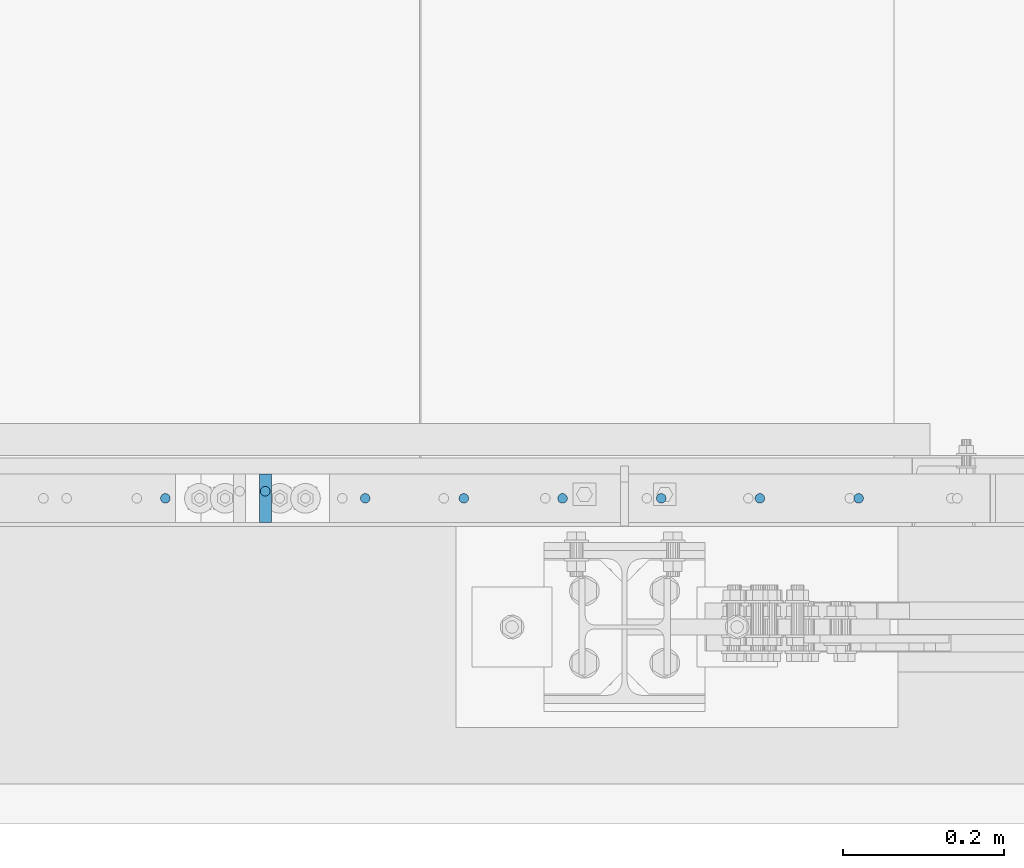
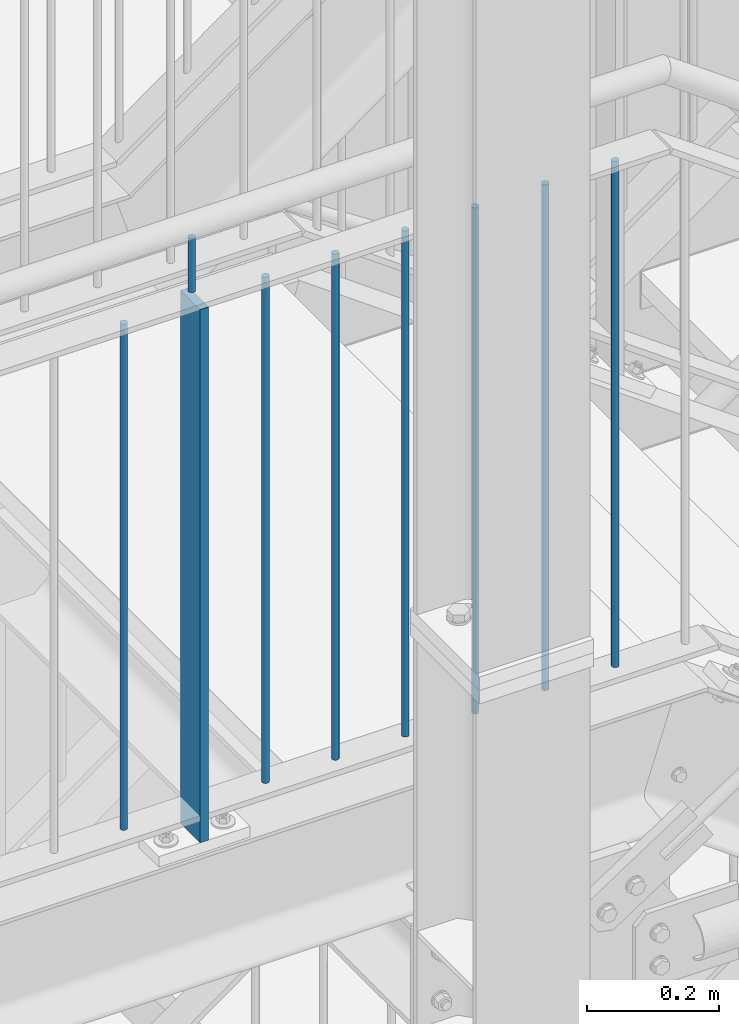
# One storey, part 13 of 831: 9 columns.
"""IFC2X3 building model written with IfcOpenShell, lengths in millimetres."""

from ifc_helpers import new_model, entity, si_unit, converted_unit, frame, origin, origin_with_axes, origin_2d, place, context, project, spatial, rectangle, circle, extrude, clip, halfspace, material, element, save


model = new_model("IFC2X3")

# Units and contexts
model_context = context("Model", 3, precision=1e-09, world=origin_with_axes())
ifc_project = project(units=[si_unit("LENGTHUNIT", "METRE", prefix="MILLI"), si_unit("AREAUNIT", "SQUARE_METRE"), si_unit("VOLUMEUNIT", "CUBIC_METRE"), converted_unit("PLANEANGLEUNIT", "DEGREE", entity("IfcPlaneAngleMeasure", 0.01745329), si_unit("PLANEANGLEUNIT", "RADIAN"), dimensions=[0, 0, 0, 0, 0, 0, 0])], contexts=[model_context])

# Site, building, storey
site_placement = place(None, origin_with_axes())
site = spatial("IfcSite", under=ifc_project, at=site_placement, Name="Site", CompositionType="ELEMENT")
building_placement = place(site_placement, origin_with_axes())
building = spatial("IfcBuilding", under=site, at=building_placement, Name="Struktur 1", CompositionType="ELEMENT")
storey_placement = place(building_placement, origin_with_axes())
storey = spatial("IfcBuildingStorey", under=building, at=storey_placement, Name="Default Storey", CompositionType="ELEMENT", Elevation=0.0)

# Columns
ifc_material = material(Name="S235JR")
column_1_placement = place(None, frame((4409.791688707, 4526.736971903, 13618.723292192), z_axis=(0.0, 0.0, 1.0), x_axis=(-1.0, 0.0, 0.0)))
element("IfcColumn", 1, at=column_1_placement, inside=storey, material=ifc_material, Name="Railing_Post_Landing#12", ObjectType="Railing_Post_Landing#12", context=model_context, shape_type="Clipping", body=[
    clip(clip(extrude(rectangle(XDim=15.0, YDim=60.0, at=origin_2d()), origin(), (0.0, 0.0, -1.0), 1070.646584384), halfspace(frame((4409.791688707, 4526.736971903, -1019.722292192), z_axis=(0.0, 0.0, 1.0), x_axis=(-1.0, 0.0, 0.0)), True)), halfspace(frame((4409.791688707, 4526.736971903, -30.924292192), z_axis=(0.0, 0.0, -1.0), x_axis=(1.0, 0.0, 0.0)), True)),
])
column_2_placement = place(None, frame((5147.791807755, 4526.736971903, 13601.285281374), z_axis=(0.0, 0.0, 1.0), x_axis=(-1.0, 0.0, 0.0)))
element("IfcColumn", 2, at=column_2_placement, inside=storey, material=ifc_material, Name="Railing_Picket_Landing#77", ObjectType="Railing_Picket_Landing#77", context=model_context, shape_type="Clipping", body=[
    clip(clip(extrude(circle(Radius=6.0, at=origin_2d()), origin(), (0.0, 0.0, -1.0), 965.770562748), halfspace(frame((5147.791807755, 4526.736971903, -13.486281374), z_axis=(0.0, 0.0, -1.0), x_axis=(1.0, 0.0, 0.0)), True)), halfspace(frame((5147.791807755, 4526.736971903, -952.284281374), z_axis=(0.0, 0.0, 1.0), x_axis=(-1.0, 0.0, 0.0)), True)),
])
column_3_placement = place(None, frame((5025.041783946, 4526.736971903, 13601.285281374), z_axis=(0.0, 0.0, 1.0), x_axis=(-1.0, 0.0, 0.0)))
element("IfcColumn", 3, at=column_3_placement, inside=storey, material=ifc_material, Name="Railing_Picket_Landing#78", ObjectType="Railing_Picket_Landing#78", context=model_context, shape_type="Clipping", body=[
    clip(clip(extrude(circle(Radius=6.0, at=origin_2d()), origin(), (0.0, 0.0, -1.0), 965.770562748), halfspace(frame((5025.041783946, 4526.736971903, -13.486281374), z_axis=(0.0, 0.0, -1.0), x_axis=(1.0, 0.0, 0.0)), True)), halfspace(frame((5025.041783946, 4526.736971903, -952.284281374), z_axis=(0.0, 0.0, 1.0), x_axis=(-1.0, 0.0, 0.0)), True)),
])
column_4_placement = place(None, frame((4902.291760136, 4526.736971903, 13601.285281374), z_axis=(0.0, 0.0, 1.0), x_axis=(-1.0, 0.0, 0.0)))
element("IfcColumn", 4, at=column_4_placement, inside=storey, material=ifc_material, Name="Railing_Picket_Landing#79", ObjectType="Railing_Picket_Landing#79", context=model_context, shape_type="Clipping", body=[
    clip(clip(extrude(circle(Radius=6.0, at=origin_2d()), origin(), (0.0, 0.0, -1.0), 965.770562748), halfspace(frame((4902.291760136, 4526.736971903, -13.486281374), z_axis=(0.0, 0.0, -1.0), x_axis=(1.0, 0.0, 0.0)), True)), halfspace(frame((4902.291760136, 4526.736971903, -952.284281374), z_axis=(0.0, 0.0, 1.0), x_axis=(-1.0, 0.0, 0.0)), True)),
])
column_5_placement = place(None, frame((4779.541736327, 4526.736971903, 13601.285281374), z_axis=(0.0, 0.0, 1.0), x_axis=(-1.0, 0.0, 0.0)))
element("IfcColumn", 5, at=column_5_placement, inside=storey, material=ifc_material, Name="Railing_Picket_Landing#80", ObjectType="Railing_Picket_Landing#80", context=model_context, shape_type="Clipping", body=[
    clip(clip(extrude(circle(Radius=6.0, at=origin_2d()), origin(), (0.0, 0.0, -1.0), 965.770562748), halfspace(frame((4779.541736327, 4526.736971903, -13.486281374), z_axis=(0.0, 0.0, -1.0), x_axis=(1.0, 0.0, 0.0)), True)), halfspace(frame((4779.541736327, 4526.736971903, -952.284281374), z_axis=(0.0, 0.0, 1.0), x_axis=(-1.0, 0.0, 0.0)), True)),
])
column_6_placement = place(None, frame((4656.791712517, 4526.736971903, 13601.285281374), z_axis=(0.0, 0.0, 1.0), x_axis=(-1.0, 0.0, 0.0)))
element("IfcColumn", 6, at=column_6_placement, inside=storey, material=ifc_material, Name="Railing_Picket_Landing#81", ObjectType="Railing_Picket_Landing#81", context=model_context, shape_type="Clipping", body=[
    clip(clip(extrude(circle(Radius=6.0, at=origin_2d()), origin(), (0.0, 0.0, -1.0), 965.770562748), halfspace(frame((4656.791712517, 4526.736971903, -13.486281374), z_axis=(0.0, 0.0, -1.0), x_axis=(1.0, 0.0, 0.0)), True)), halfspace(frame((4656.791712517, 4526.736971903, -952.284281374), z_axis=(0.0, 0.0, 1.0), x_axis=(-1.0, 0.0, 0.0)), True)),
])
column_7_placement = place(None, frame((4534.041688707, 4526.736971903, 13601.285281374), z_axis=(0.0, 0.0, 1.0), x_axis=(-1.0, 0.0, 0.0)))
element("IfcColumn", 7, at=column_7_placement, inside=storey, material=ifc_material, Name="Railing_Picket_Landing#82", ObjectType="Railing_Picket_Landing#82", context=model_context, shape_type="Clipping", body=[
    clip(clip(extrude(circle(Radius=6.0, at=origin_2d()), origin(), (0.0, 0.0, -1.0), 965.770562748), halfspace(frame((4534.041688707, 4526.736971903, -13.486281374), z_axis=(0.0, 0.0, -1.0), x_axis=(1.0, 0.0, 0.0)), True)), halfspace(frame((4534.041688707, 4526.736971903, -952.284281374), z_axis=(0.0, 0.0, 1.0), x_axis=(-1.0, 0.0, 0.0)), True)),
])
column_8_placement = place(None, frame((4285.541688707, 4526.736971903, 13601.285281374), z_axis=(0.0, 0.0, 1.0), x_axis=(-1.0, 0.0, 0.0)))
element("IfcColumn", 8, at=column_8_placement, inside=storey, material=ifc_material, Name="Railing_Picket_Landing#83", ObjectType="Railing_Picket_Landing#83", context=model_context, shape_type="Clipping", body=[
    clip(clip(extrude(circle(Radius=6.0, at=origin_2d()), origin(), (0.0, 0.0, -1.0), 965.770562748), halfspace(frame((4285.541688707, 4526.736971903, -13.486281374), z_axis=(0.0, 0.0, -1.0), x_axis=(1.0, 0.0, 0.0)), True)), halfspace(frame((4285.541688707, 4526.736971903, -952.284281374), z_axis=(0.0, 0.0, 1.0), x_axis=(-1.0, 0.0, 0.0)), True)),
])
column_9_placement = place(None, frame((4409.791688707, 4535.536971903, 13706.285281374), z_axis=(0.0, 0.0, 1.0), x_axis=(0.0, 1.0, 0.0)))
element("IfcColumn", 9, at=column_9_placement, inside=storey, material=ifc_material, Name="Bar#12", ObjectType="Bar#12", context=model_context, shape_type="Clipping", body=[
    clip(clip(extrude(circle(Radius=6.0, at=origin_2d()), origin(), (0.0, 0.0, -1.0), 116.970562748), halfspace(frame((-4535.536971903, 4409.791688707, -8.486281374), z_axis=(0.0, 0.0, -1.0), x_axis=(0.0, 1.0, 0.0)), True)), halfspace(frame((-4535.536971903, 4409.791688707, -108.484281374), z_axis=(0.0, 0.0, 1.0), x_axis=(0.0, -1.0, 0.0)), True)),
])

save(model, "model.ifc")
